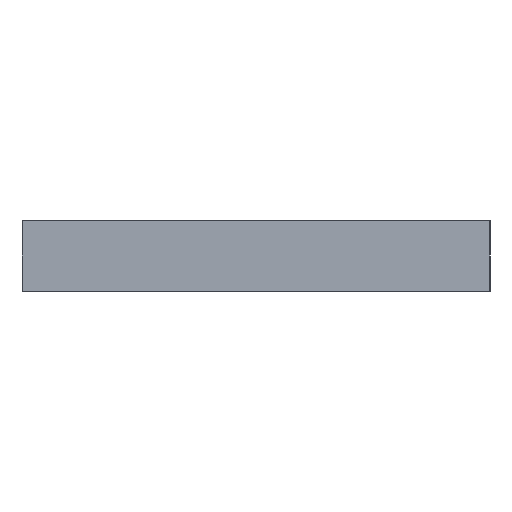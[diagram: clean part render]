
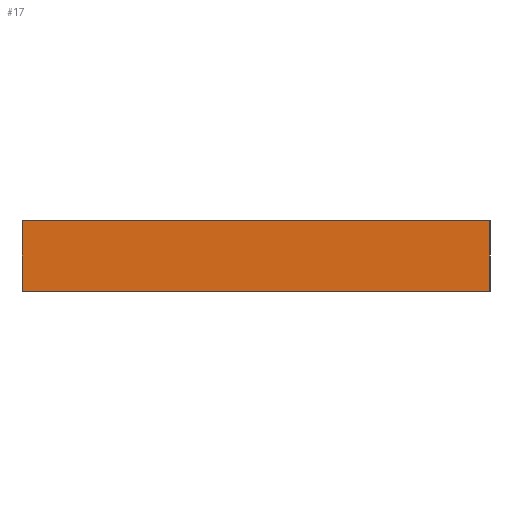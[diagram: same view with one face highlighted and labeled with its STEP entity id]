
A CAD part, left-side view. The second image highlights one B-rep face of the part: STEP entity #17.
In plain terms, the highlighted planar face has unit normal (-1, 0, 0).
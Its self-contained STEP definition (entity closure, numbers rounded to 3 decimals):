
#17 = ADVANCED_FACE('',(#18),#32,.F.);
#18 = FACE_BOUND('',#19,.F.);
#19 = EDGE_LOOP('',(#20,#55,#83,#111));
#20 = ORIENTED_EDGE('',*,*,#21,.F.);
#21 = EDGE_CURVE('',#22,#24,#26,.T.);
#22 = VERTEX_POINT('',#23);
#23 = CARTESIAN_POINT('',(95.,25.,11.));
#24 = VERTEX_POINT('',#25);
#25 = CARTESIAN_POINT('',(95.,25.,17.));
#26 = SURFACE_CURVE('',#27,(#31,#43),.PCURVE_S1.);
#27 = LINE('',#28,#29);
#28 = CARTESIAN_POINT('',(95.,25.,11.));
#29 = VECTOR('',#30,1.);
#30 = DIRECTION('',(0.,0.,1.));
#31 = PCURVE('',#32,#37);
#32 = PLANE('',#33);
#33 = AXIS2_PLACEMENT_3D('',#34,#35,#36);
#34 = CARTESIAN_POINT('',(95.,25.,11.));
#35 = DIRECTION('',(1.,0.,0.));
#36 = DIRECTION('',(0.,0.,1.));
#37 = DEFINITIONAL_REPRESENTATION('',(#38),#42);
#38 = LINE('',#39,#40);
#39 = CARTESIAN_POINT('',(0.,0.));
#40 = VECTOR('',#41,1.);
#41 = DIRECTION('',(1.,0.));
#42 = ( GEOMETRIC_REPRESENTATION_CONTEXT(2) 
PARAMETRIC_REPRESENTATION_CONTEXT() REPRESENTATION_CONTEXT('2D SPACE',''
  ) );
#43 = PCURVE('',#44,#49);
#44 = PLANE('',#45);
#45 = AXIS2_PLACEMENT_3D('',#46,#47,#48);
#46 = CARTESIAN_POINT('',(95.,25.,11.));
#47 = DIRECTION('',(0.,1.,0.));
#48 = DIRECTION('',(0.,0.,1.));
#49 = DEFINITIONAL_REPRESENTATION('',(#50),#54);
#50 = LINE('',#51,#52);
#51 = CARTESIAN_POINT('',(0.,0.));
#52 = VECTOR('',#53,1.);
#53 = DIRECTION('',(1.,0.));
#54 = ( GEOMETRIC_REPRESENTATION_CONTEXT(2) 
PARAMETRIC_REPRESENTATION_CONTEXT() REPRESENTATION_CONTEXT('2D SPACE',''
  ) );
#55 = ORIENTED_EDGE('',*,*,#56,.T.);
#56 = EDGE_CURVE('',#22,#57,#59,.T.);
#57 = VERTEX_POINT('',#58);
#58 = CARTESIAN_POINT('',(95.,65.,11.));
#59 = SURFACE_CURVE('',#60,(#64,#71),.PCURVE_S1.);
#60 = LINE('',#61,#62);
#61 = CARTESIAN_POINT('',(95.,25.,11.));
#62 = VECTOR('',#63,1.);
#63 = DIRECTION('',(0.,1.,0.));
#64 = PCURVE('',#32,#65);
#65 = DEFINITIONAL_REPRESENTATION('',(#66),#70);
#66 = LINE('',#67,#68);
#67 = CARTESIAN_POINT('',(0.,0.));
#68 = VECTOR('',#69,1.);
#69 = DIRECTION('',(0.,-1.));
#70 = ( GEOMETRIC_REPRESENTATION_CONTEXT(2) 
PARAMETRIC_REPRESENTATION_CONTEXT() REPRESENTATION_CONTEXT('2D SPACE',''
  ) );
#71 = PCURVE('',#72,#77);
#72 = PLANE('',#73);
#73 = AXIS2_PLACEMENT_3D('',#74,#75,#76);
#74 = CARTESIAN_POINT('',(95.,25.,11.));
#75 = DIRECTION('',(0.,0.,1.));
#76 = DIRECTION('',(1.,0.,0.));
#77 = DEFINITIONAL_REPRESENTATION('',(#78),#82);
#78 = LINE('',#79,#80);
#79 = CARTESIAN_POINT('',(0.,0.));
#80 = VECTOR('',#81,1.);
#81 = DIRECTION('',(0.,1.));
#82 = ( GEOMETRIC_REPRESENTATION_CONTEXT(2) 
PARAMETRIC_REPRESENTATION_CONTEXT() REPRESENTATION_CONTEXT('2D SPACE',''
  ) );
#83 = ORIENTED_EDGE('',*,*,#84,.T.);
#84 = EDGE_CURVE('',#57,#85,#87,.T.);
#85 = VERTEX_POINT('',#86);
#86 = CARTESIAN_POINT('',(95.,65.,17.));
#87 = SURFACE_CURVE('',#88,(#92,#99),.PCURVE_S1.);
#88 = LINE('',#89,#90);
#89 = CARTESIAN_POINT('',(95.,65.,11.));
#90 = VECTOR('',#91,1.);
#91 = DIRECTION('',(0.,0.,1.));
#92 = PCURVE('',#32,#93);
#93 = DEFINITIONAL_REPRESENTATION('',(#94),#98);
#94 = LINE('',#95,#96);
#95 = CARTESIAN_POINT('',(0.,-40.));
#96 = VECTOR('',#97,1.);
#97 = DIRECTION('',(1.,0.));
#98 = ( GEOMETRIC_REPRESENTATION_CONTEXT(2) 
PARAMETRIC_REPRESENTATION_CONTEXT() REPRESENTATION_CONTEXT('2D SPACE',''
  ) );
#99 = PCURVE('',#100,#105);
#100 = PLANE('',#101);
#101 = AXIS2_PLACEMENT_3D('',#102,#103,#104);
#102 = CARTESIAN_POINT('',(95.,65.,11.));
#103 = DIRECTION('',(0.,1.,0.));
#104 = DIRECTION('',(0.,0.,1.));
#105 = DEFINITIONAL_REPRESENTATION('',(#106),#110);
#106 = LINE('',#107,#108);
#107 = CARTESIAN_POINT('',(0.,0.));
#108 = VECTOR('',#109,1.);
#109 = DIRECTION('',(1.,0.));
#110 = ( GEOMETRIC_REPRESENTATION_CONTEXT(2) 
PARAMETRIC_REPRESENTATION_CONTEXT() REPRESENTATION_CONTEXT('2D SPACE',''
  ) );
#111 = ORIENTED_EDGE('',*,*,#112,.F.);
#112 = EDGE_CURVE('',#24,#85,#113,.T.);
#113 = SURFACE_CURVE('',#114,(#118,#125),.PCURVE_S1.);
#114 = LINE('',#115,#116);
#115 = CARTESIAN_POINT('',(95.,25.,17.));
#116 = VECTOR('',#117,1.);
#117 = DIRECTION('',(0.,1.,0.));
#118 = PCURVE('',#32,#119);
#119 = DEFINITIONAL_REPRESENTATION('',(#120),#124);
#120 = LINE('',#121,#122);
#121 = CARTESIAN_POINT('',(6.,0.));
#122 = VECTOR('',#123,1.);
#123 = DIRECTION('',(0.,-1.));
#124 = ( GEOMETRIC_REPRESENTATION_CONTEXT(2) 
PARAMETRIC_REPRESENTATION_CONTEXT() REPRESENTATION_CONTEXT('2D SPACE',''
  ) );
#125 = PCURVE('',#126,#131);
#126 = PLANE('',#127);
#127 = AXIS2_PLACEMENT_3D('',#128,#129,#130);
#128 = CARTESIAN_POINT('',(95.,25.,17.));
#129 = DIRECTION('',(0.,0.,1.));
#130 = DIRECTION('',(1.,0.,0.));
#131 = DEFINITIONAL_REPRESENTATION('',(#132),#136);
#132 = LINE('',#133,#134);
#133 = CARTESIAN_POINT('',(0.,0.));
#134 = VECTOR('',#135,1.);
#135 = DIRECTION('',(0.,1.));
#136 = ( GEOMETRIC_REPRESENTATION_CONTEXT(2) 
PARAMETRIC_REPRESENTATION_CONTEXT() REPRESENTATION_CONTEXT('2D SPACE',''
  ) );
